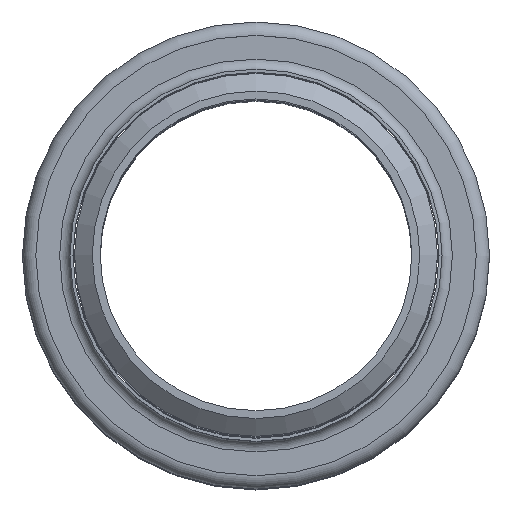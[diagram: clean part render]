
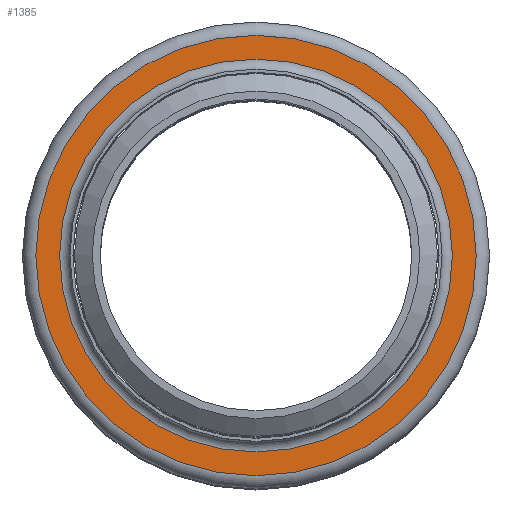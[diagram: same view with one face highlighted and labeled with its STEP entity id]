
A CAD part, top view. The second image highlights one B-rep face of the part: STEP entity #1385.
In plain terms, the highlighted planar face has unit normal (0, 0, 1).
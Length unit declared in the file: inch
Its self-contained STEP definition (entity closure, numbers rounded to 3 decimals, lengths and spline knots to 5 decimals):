
#155=FACE_BOUND('',#416,.T.);
#256=FACE_OUTER_BOUND('',#415,.T.);
#415=EDGE_LOOP('',(#1168));
#416=EDGE_LOOP('',(#1169));
#584=CIRCLE('',#1684,1.55575);
#585=CIRCLE('',#1686,1.74425);
#703=VERTEX_POINT('',#2631);
#704=VERTEX_POINT('',#2635);
#862=EDGE_CURVE('',#703,#703,#584,.T.);
#863=EDGE_CURVE('',#704,#704,#585,.T.);
#1168=ORIENTED_EDGE('',*,*,#863,.F.);
#1169=ORIENTED_EDGE('',*,*,#862,.T.);
#1284=PLANE('',#1685);
#1385=ADVANCED_FACE('',(#256,#155),#1284,.T.);
#1684=AXIS2_PLACEMENT_3D('',#2633,#2197,#2198);
#1685=AXIS2_PLACEMENT_3D('',#2634,#2199,#2200);
#1686=AXIS2_PLACEMENT_3D('',#2636,#2201,#2202);
#2197=DIRECTION('center_axis',(0.,0.,-1.));
#2198=DIRECTION('ref_axis',(1.,0.,0.));
#2199=DIRECTION('center_axis',(0.,0.,1.));
#2200=DIRECTION('ref_axis',(1.,0.,0.));
#2201=DIRECTION('center_axis',(0.,0.,-1.));
#2202=DIRECTION('ref_axis',(1.,0.,0.));
#2631=CARTESIAN_POINT('',(1.55575,0.,-0.08175));
#2633=CARTESIAN_POINT('Origin',(0.,0.,-0.08175));
#2634=CARTESIAN_POINT('Origin',(0.,1.74425,-0.08175));
#2635=CARTESIAN_POINT('',(1.74425,0.,-0.08175));
#2636=CARTESIAN_POINT('Origin',(0.,0.,-0.08175));
